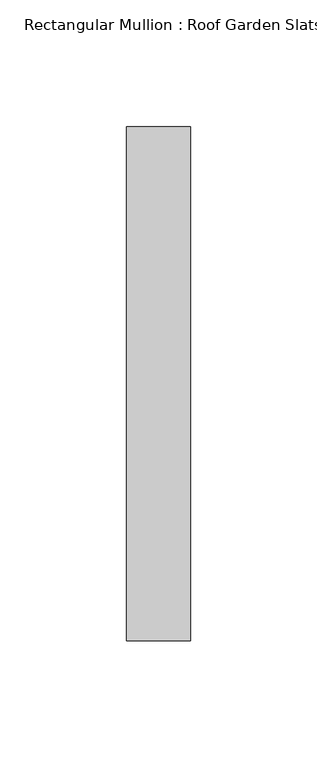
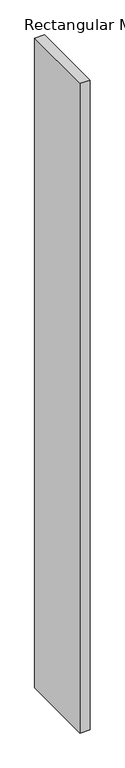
"""IFC4 building model written with IfcOpenShell, lengths in millimetres: member geometry, Rectangular Mullion : Roof Garden Slats."""

from ifc_helpers import new_model, si_unit, frame, origin, place, context, project, spatial, polyline, outline, extrude, source, transform, mapped, element, save


def rectangular_mullion_roof_garden_slats_1913a538(model_context):
    return source(origin(), model_context, "Body", "SweptSolid", [
        extrude(outline(polyline([(0.0, 139.7), (0.0, -63.5), (-25.4, -63.5), (-25.4, 139.7), (0.0, 139.7)])), frame((0.0, 0.0, -1775.4358561), z_axis=(0.0, 0.0, 1.0), x_axis=(1.0, 0.0, 0.0)), (0.0, 0.0, 1.0), 1775.4358561),
    ])


if __name__ == "__main__":
    model = new_model("IFC4")
    model_context = context("Model", 3, world=origin())
    ifc_project = project(units=[si_unit("LENGTHUNIT", "METRE", prefix="MILLI")], contexts=[model_context])
    site = spatial("IfcSite", under=ifc_project)
    building = spatial("IfcBuilding", under=site)
    placement = place(None, origin())
    rectangular_mullion_roof_garden_slats_shape = rectangular_mullion_roof_garden_slats_1913a538(model_context)
    element("IfcMember", 1, ObjectType="Rectangular Mullion : Roof Garden Slats", at=placement, inside=building, context=model_context, shape_type="MappedRepresentation", body=[
        mapped(rectangular_mullion_roof_garden_slats_shape, transform((0.0, 0.0, 0.0), x_axis=(1.0, 0.0, 0.0), y_axis=(0.0, 1.0, 0.0), z_axis=(0.0, 0.0, 1.0))),
    ])
    save(model, "model.ifc")
